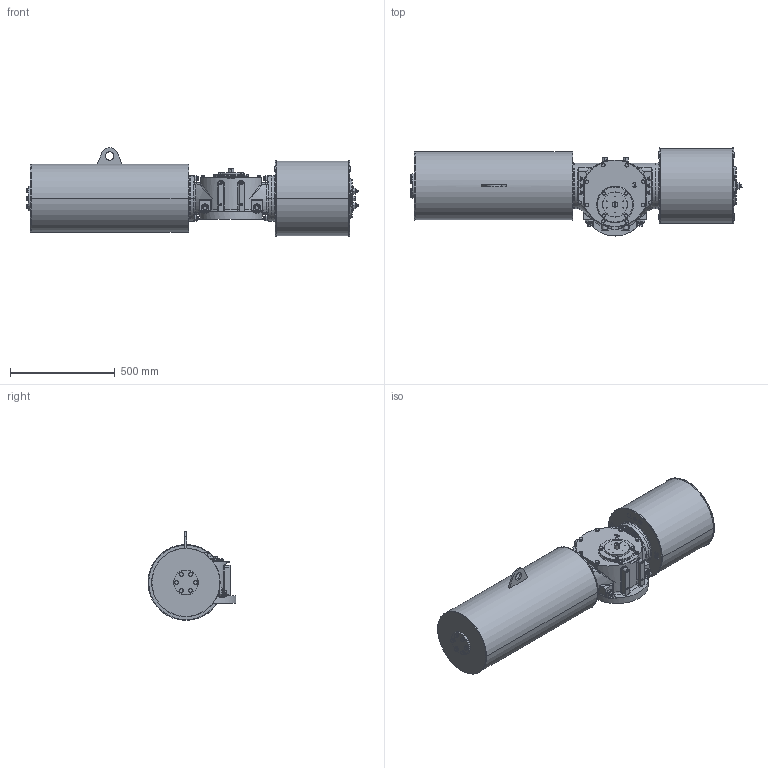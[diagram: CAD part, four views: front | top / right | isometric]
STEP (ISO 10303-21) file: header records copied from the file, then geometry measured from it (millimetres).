
FILE_DESCRIPTION (( 'STEP AP203' ), '1' );
FILE_NAME ('VTS3-350-SR-FO.STEP', '2023-01-01T08:51:39', ( '' ), ( '' ), 'SwSTEP 2.0', 'SolidWorks 2020', '' );
FILE_SCHEMA (( 'CONFIG_CONTROL_DESIGN' ));
Length unit declared in the file: millimetre
Products named in the file (1): VTS3-350-SR-FO
Bounding box: 1584.78 x 420 x 423.5 mm (x, y, z)
Volume: 118384638.9 mm3; surface area: 2308932.9 mm2
Topology: 4 solids, 5 shells, 1973 faces, 5075 edges, 3196 vertices
Faces by surface type: plane 782, cylinder 597, cone 447, bspline 141, torus 6
Entity records: 76378 total; most frequent: CARTESIAN_POINT 29850, ORIENTED_EDGE 10020, DIRECTION 9450, EDGE_CURVE 5010, AXIS2_PLACEMENT_3D 3740, VERTEX_POINT 3196, EDGE_LOOP 2188, FACE_OUTER_BOUND 1973
